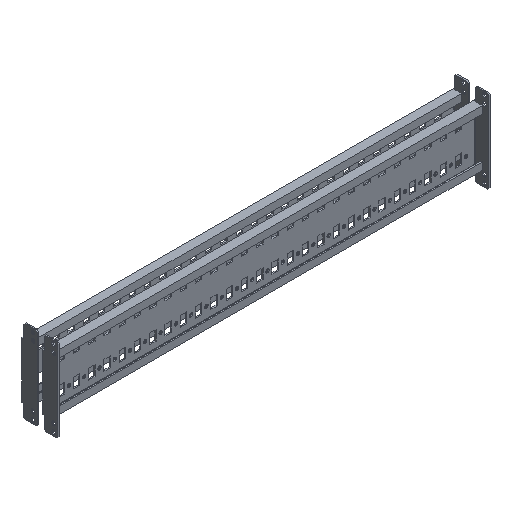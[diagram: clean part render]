
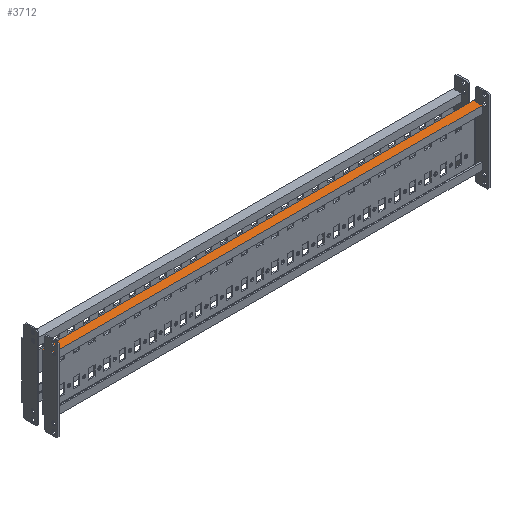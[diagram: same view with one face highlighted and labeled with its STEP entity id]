
A CAD part, isometric view. The second image highlights one B-rep face of the part: STEP entity #3712.
In plain terms, the highlighted planar face has unit normal (0, 0, 1).
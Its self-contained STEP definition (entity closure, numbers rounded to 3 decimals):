
#62 = EDGE_CURVE ( 'NONE', #7016, #7573, #64, .T. ) ;
#64 = LINE ( 'NONE', #2926, #12494 ) ;
#130 = CARTESIAN_POINT ( 'NONE',  ( -353.5, 0., 46. ) ) ;
#173 = PLANE ( 'NONE',  #10514 ) ;
#649 = ORIENTED_EDGE ( 'NONE', *, *, #713, .F. ) ;
#713 = EDGE_CURVE ( 'NONE', #1287, #7975, #12841, .T. ) ;
#1154 = ORIENTED_EDGE ( 'NONE', *, *, #8099, .T. ) ;
#1271 = CARTESIAN_POINT ( 'NONE',  ( -351.5, -14., 46. ) ) ;
#1287 = VERTEX_POINT ( 'NONE', #3004 ) ;
#1327 = CARTESIAN_POINT ( 'NONE',  ( 0., 0., 46. ) ) ;
#1405 = VERTEX_POINT ( 'NONE', #4367 ) ;
#1607 = CARTESIAN_POINT ( 'NONE',  ( -371.939, 0., 46. ) ) ;
#1655 = ORIENTED_EDGE ( 'NONE', *, *, #5749, .T. ) ;
#2205 = FACE_OUTER_BOUND ( 'NONE', #10443, .T. ) ;
#2382 = DIRECTION ( 'NONE',  ( 0., -1., 0. ) ) ;
#2617 = DIRECTION ( 'NONE',  ( -1., 0., 0. ) ) ;
#2639 = DIRECTION ( 'NONE',  ( 1., 0., 0. ) ) ;
#2897 = EDGE_CURVE ( 'NONE', #9123, #7016, #7920, .T. ) ;
#2926 = CARTESIAN_POINT ( 'NONE',  ( 351.5, 0., 46. ) ) ;
#3004 = CARTESIAN_POINT ( 'NONE',  ( -353.5, 0., 46. ) ) ;
#3258 = ORIENTED_EDGE ( 'NONE', *, *, #10044, .F. ) ;
#3324 = LINE ( 'NONE', #130, #11433 ) ;
#3712 = ADVANCED_FACE ( 'NONE', ( #2205 ), #173, .F. ) ;
#4294 = DIRECTION ( 'NONE',  ( -1., 0., 0. ) ) ;
#4367 = CARTESIAN_POINT ( 'NONE',  ( -351.5, -3., 46. ) ) ;
#4602 = DIRECTION ( 'NONE',  ( 1., 0., 0. ) ) ;
#4845 = CARTESIAN_POINT ( 'NONE',  ( 351.5, -3., 46. ) ) ;
#5010 = ORIENTED_EDGE ( 'NONE', *, *, #62, .F. ) ;
#5539 = DIRECTION ( 'NONE',  ( 0., 0., -1. ) ) ;
#5749 = EDGE_CURVE ( 'NONE', #1287, #11894, #3324, .T. ) ;
#5799 = ORIENTED_EDGE ( 'NONE', *, *, #12184, .F. ) ;
#6463 = DIRECTION ( 'NONE',  ( 0., 1., 0. ) ) ;
#6664 = LINE ( 'NONE', #10594, #8875 ) ;
#6983 = ORIENTED_EDGE ( 'NONE', *, *, #12648, .F. ) ;
#7016 = VERTEX_POINT ( 'NONE', #8715 ) ;
#7163 = DIRECTION ( 'NONE',  ( 0., -1., 0. ) ) ;
#7380 = CARTESIAN_POINT ( 'NONE',  ( -351.5, -3., 46. ) ) ;
#7433 = CARTESIAN_POINT ( 'NONE',  ( 351.5, -14., 46. ) ) ;
#7483 = VECTOR ( 'NONE', #2617, 1000. ) ;
#7573 = VERTEX_POINT ( 'NONE', #7433 ) ;
#7915 = VERTEX_POINT ( 'NONE', #1271 ) ;
#7920 = LINE ( 'NONE', #4845, #7483 ) ;
#7975 = VERTEX_POINT ( 'NONE', #11740 ) ;
#8099 = EDGE_CURVE ( 'NONE', #7915, #7573, #10915, .T. ) ;
#8178 = CARTESIAN_POINT ( 'NONE',  ( -353.5, -3., 46. ) ) ;
#8515 = LINE ( 'NONE', #10612, #13191 ) ;
#8715 = CARTESIAN_POINT ( 'NONE',  ( 351.5, -3., 46. ) ) ;
#8875 = VECTOR ( 'NONE', #6463, 1000. ) ;
#8898 = VECTOR ( 'NONE', #4294, 1000. ) ;
#9122 = CARTESIAN_POINT ( 'NONE',  ( 353.5, -3., 46. ) ) ;
#9123 = VERTEX_POINT ( 'NONE', #9122 ) ;
#9538 = LINE ( 'NONE', #7380, #8898 ) ;
#10044 = EDGE_CURVE ( 'NONE', #1405, #11894, #9538, .T. ) ;
#10233 = ORIENTED_EDGE ( 'NONE', *, *, #2897, .F. ) ;
#10365 = VECTOR ( 'NONE', #4602, 1000. ) ;
#10443 = EDGE_LOOP ( 'NONE', ( #5010, #10233, #5799, #649, #1655, #3258, #6983, #1154 ) ) ;
#10514 = AXIS2_PLACEMENT_3D ( 'NONE', #1327, #5539, #10562 ) ;
#10562 = DIRECTION ( 'NONE',  ( 0., -1., 0. ) ) ;
#10594 = CARTESIAN_POINT ( 'NONE',  ( -351.5, 0., 46. ) ) ;
#10612 = CARTESIAN_POINT ( 'NONE',  ( 353.5, 0., 46. ) ) ;
#10738 = DIRECTION ( 'NONE',  ( 0., -1., 0. ) ) ;
#10854 = CARTESIAN_POINT ( 'NONE',  ( -371.939, -14., 46. ) ) ;
#10915 = LINE ( 'NONE', #10854, #10365 ) ;
#10980 = VECTOR ( 'NONE', #2639, 1000. ) ;
#11433 = VECTOR ( 'NONE', #2382, 1000. ) ;
#11740 = CARTESIAN_POINT ( 'NONE',  ( 353.5, 0., 46. ) ) ;
#11894 = VERTEX_POINT ( 'NONE', #8178 ) ;
#12184 = EDGE_CURVE ( 'NONE', #7975, #9123, #8515, .T. ) ;
#12494 = VECTOR ( 'NONE', #7163, 1000. ) ;
#12648 = EDGE_CURVE ( 'NONE', #7915, #1405, #6664, .T. ) ;
#12841 = LINE ( 'NONE', #1607, #10980 ) ;
#13191 = VECTOR ( 'NONE', #10738, 1000. ) ;
